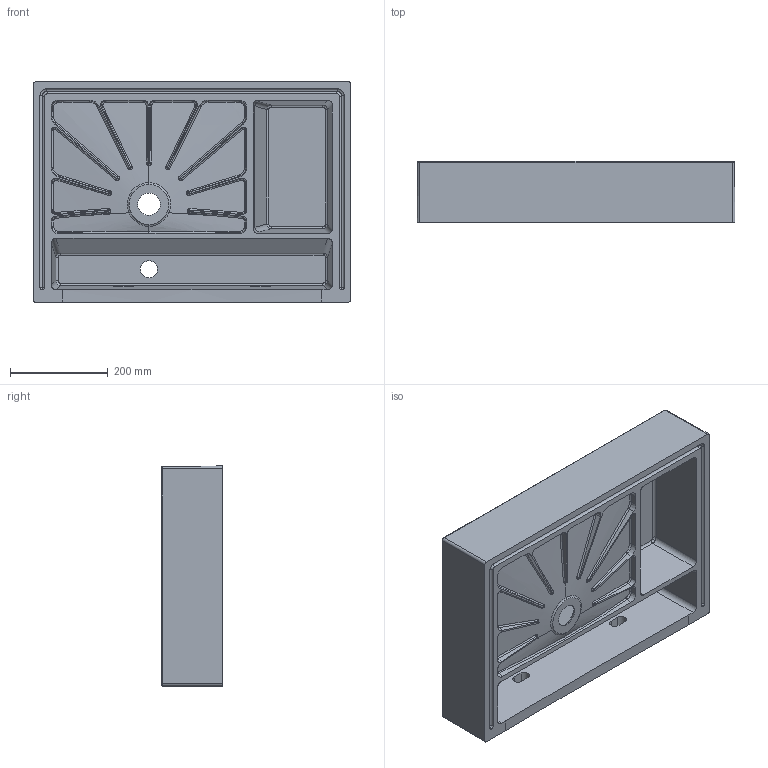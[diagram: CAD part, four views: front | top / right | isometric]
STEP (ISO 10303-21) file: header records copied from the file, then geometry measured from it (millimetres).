
FILE_DESCRIPTION (( 'STEP AP203' ), '1' );
FILE_NAME ('ELLP06545RQM.STEP', '2019-01-21T16:16:50', ( '' ), ( '' ), 'SwSTEP 2.0', 'SolidWorks 2019', '' );
FILE_SCHEMA (( 'CONFIG_CONTROL_DESIGN' ));
Length unit declared in the file: millimetre
Products named in the file (1): ELLP06545RQM
Bounding box: 650.18 x 125 x 450.09 mm (x, y, z)
Volume: 12181453.2 mm3; surface area: 1197631.9 mm2
Topology: 1 solids, 1 shells, 298 faces, 750 edges, 452 vertices
Faces by surface type: bspline 123, plane 60, cylinder 50, cone 47, torus 10, sphere 8
Entity records: 22462 total; most frequent: CARTESIAN_POINT 16212, ORIENTED_EDGE 1488, DIRECTION 1066, EDGE_CURVE 744, VERTEX_POINT 452, AXIS2_PLACEMENT_3D 419, EDGE_LOOP 310, FACE_OUTER_BOUND 298
